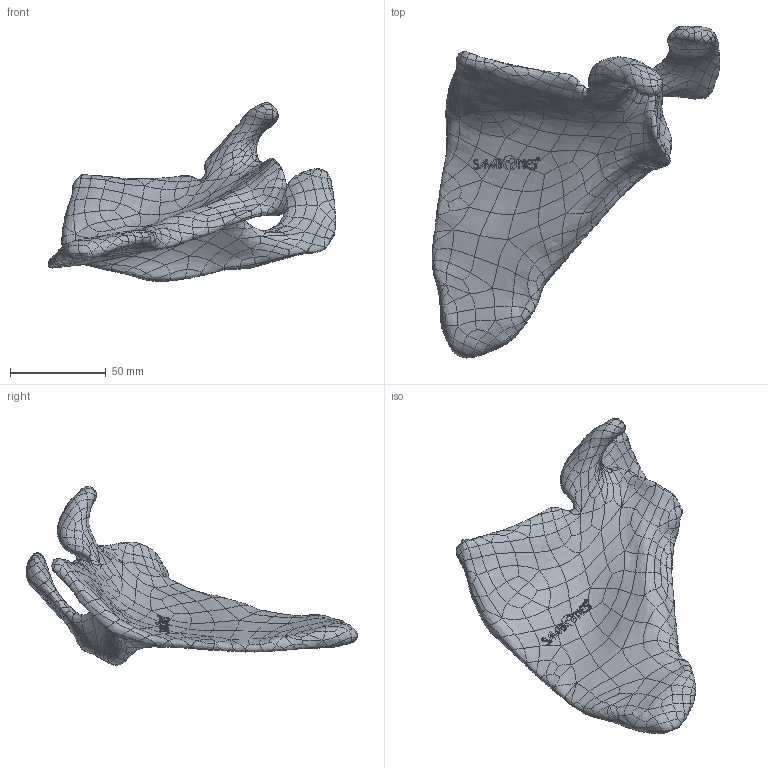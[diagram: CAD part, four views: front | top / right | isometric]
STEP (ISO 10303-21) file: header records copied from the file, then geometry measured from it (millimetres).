
FILE_DESCRIPTION (( 'STEP AP203' ), '1' );
FILE_NAME ('3413.STEP', '2025-06-11T20:37:53', ( '' ), ( '' ), 'SwSTEP 2.0', 'SolidWorks 2024', '' );
FILE_SCHEMA (( 'CONFIG_CONTROL_DESIGN' ));
Products named in the file (1): 3413
Bounding box: 150.32 x 173.6 x 93.6 mm (x, y, z)
Volume: 136107.4 mm3; surface area: 41470.2 mm2
Topology: 1 solids, 1 shells, 1119 faces, 2416 edges, 1308 vertices
Faces by surface type: bspline 1118, plane 1
Entity records: 94975 total; most frequent: CARTESIAN_POINT 79422, ORIENTED_EDGE 4832, B_SPLINE_CURVE_WITH_KNOTS 2416, EDGE_CURVE 2416, VERTEX_POINT 1308, EDGE_LOOP 1128, ADVANCED_FACE 1119, FACE_OUTER_BOUND 1119
